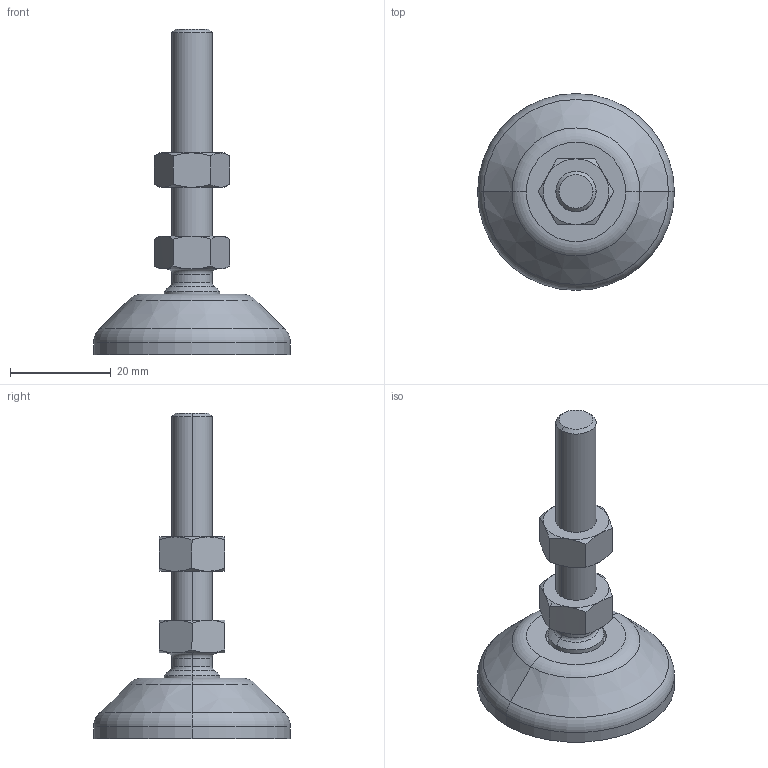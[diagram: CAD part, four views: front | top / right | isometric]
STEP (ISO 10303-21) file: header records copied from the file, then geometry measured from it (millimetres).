
FILE_DESCRIPTION (( 'STEP AP203' ), '1' );
FILE_NAME ('0108SD40M8X60.STEP', '2024-09-06T10:17:21', ( 'Windows-Benutzer' ), ( '' ), 'SwSTEP 2.0', 'SolidWorks 2024', '' );
FILE_SCHEMA (( 'CONFIG_CONTROL_DESIGN' ));
Length unit declared in the file: millimetre
Products named in the file (4): Stellfuß Schwenkbolzen M8x60 zu FP D40; Hexagon Nut ISO 4032 - M8 - D - N-ST8_8-ZN_Hexagon Nut ISO 4032 - M8 - D - N-ST8_8-ZN; 0108SD40M8X60; Stellfuß Bodenplatte D40 zu M8 Schwenkbolzen
Assembly tree (3 placements, depth 2):
  0108SD40M8X60
    Stellfuß Bodenplatte D40 zu M8 Schwenkbolzen
    Stellfuß Schwenkbolzen M8x60 zu FP D40
    Hexagon Nut ISO 4032 - M8 - D - N-ST8_8-ZN_Hexagon Nut ISO 4032 - M8 - D - N-ST8_8-ZN
Bounding box: 39 x 39 x 64.5 mm (x, y, z)
Volume: 15209.3 mm3; surface area: 5779.7 mm2
Topology: 3 solids, 3 shells, 84 faces, 184 edges, 107 vertices
Faces by surface type: cone 34, plane 20, cylinder 18, torus 8, sphere 2, bspline 2
Entity records: 3124 total; most frequent: CARTESIAN_POINT 957, DIRECTION 380, ORIENTED_EDGE 360, EDGE_CURVE 180, AXIS2_PLACEMENT_3D 170, VERTEX_POINT 105, EDGE_LOOP 89, ADVANCED_FACE 84
